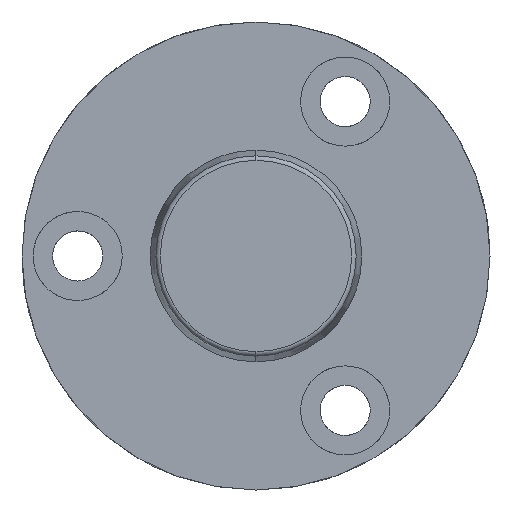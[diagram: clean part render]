
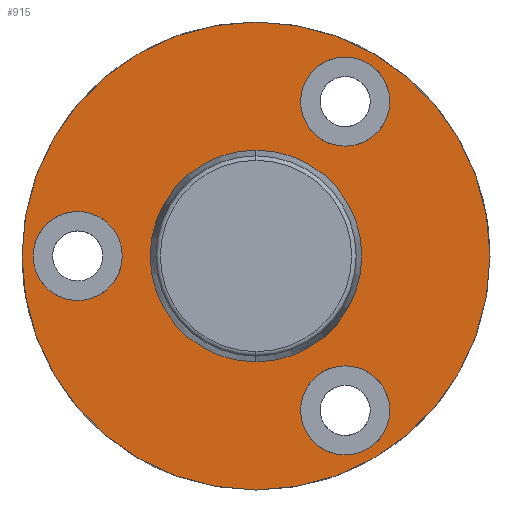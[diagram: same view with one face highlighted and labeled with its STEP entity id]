
A CAD part, left-side view. The second image highlights one B-rep face of the part: STEP entity #915.
In plain terms, the highlighted planar face has unit normal (-1, 0, 0).
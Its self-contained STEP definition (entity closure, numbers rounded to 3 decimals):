
#429=CARTESIAN_POINT('Vertex',(-8.,0.,-21.)) ;
#432=CARTESIAN_POINT('Axis2P3D Location',(-8.,0.,0.)) ;
#436=CARTESIAN_POINT('Vertex',(-8.,21.,0.)) ;
#439=CARTESIAN_POINT('Axis2P3D Location',(-8.,0.,0.)) ;
#443=CARTESIAN_POINT('Vertex',(-8.,0.,21.)) ;
#465=CARTESIAN_POINT('Axis2P3D Location',(-8.,0.,0.)) ;
#469=CARTESIAN_POINT('Vertex',(-8.,-21.,0.)) ;
#472=CARTESIAN_POINT('Axis2P3D Location',(-8.,0.,0.)) ;
#768=CARTESIAN_POINT('Axis2P3D Location',(-8.,8.,0.)) ;
#779=CARTESIAN_POINT('Axis2P3D Location',(-8.,16.,0.)) ;
#783=CARTESIAN_POINT('Vertex',(-8.,16.,4.)) ;
#785=CARTESIAN_POINT('Vertex',(-8.,20.,0.)) ;
#788=CARTESIAN_POINT('Axis2P3D Location',(-8.,16.,0.)) ;
#792=CARTESIAN_POINT('Vertex',(-8.,12.,0.)) ;
#795=CARTESIAN_POINT('Axis2P3D Location',(-8.,16.,0.)) ;
#799=CARTESIAN_POINT('Vertex',(-8.,16.,-4.)) ;
#802=CARTESIAN_POINT('Axis2P3D Location',(-8.,16.,0.)) ;
#813=CARTESIAN_POINT('Axis2P3D Location',(-8.,-8.,13.856)) ;
#817=CARTESIAN_POINT('Vertex',(-8.,-4.,13.856)) ;
#819=CARTESIAN_POINT('Vertex',(-8.,-8.,17.856)) ;
#822=CARTESIAN_POINT('Axis2P3D Location',(-8.,-8.,13.856)) ;
#826=CARTESIAN_POINT('Vertex',(-8.,-12.,13.856)) ;
#829=CARTESIAN_POINT('Axis2P3D Location',(-8.,-8.,13.856)) ;
#833=CARTESIAN_POINT('Vertex',(-8.,-8.,9.856)) ;
#836=CARTESIAN_POINT('Axis2P3D Location',(-8.,-8.,13.856)) ;
#847=CARTESIAN_POINT('Axis2P3D Location',(-8.,-8.,-13.856)) ;
#851=CARTESIAN_POINT('Vertex',(-8.,-4.,-13.856)) ;
#853=CARTESIAN_POINT('Vertex',(-8.,-8.,-9.856)) ;
#856=CARTESIAN_POINT('Axis2P3D Location',(-8.,-8.,-13.856)) ;
#860=CARTESIAN_POINT('Vertex',(-8.,-12.,-13.856)) ;
#863=CARTESIAN_POINT('Axis2P3D Location',(-8.,-8.,-13.856)) ;
#867=CARTESIAN_POINT('Vertex',(-8.,-8.,-17.856)) ;
#870=CARTESIAN_POINT('Axis2P3D Location',(-8.,-8.,-13.856)) ;
#881=CARTESIAN_POINT('Axis2P3D Location',(-8.,0.,0.)) ;
#885=CARTESIAN_POINT('Vertex',(-8.,8.,0.)) ;
#887=CARTESIAN_POINT('Vertex',(-8.,0.,8.)) ;
#890=CARTESIAN_POINT('Axis2P3D Location',(-8.,0.,0.)) ;
#894=CARTESIAN_POINT('Vertex',(-8.,-8.,0.)) ;
#897=CARTESIAN_POINT('Axis2P3D Location',(-8.,0.,0.)) ;
#901=CARTESIAN_POINT('Vertex',(-8.,0.,-8.)) ;
#904=CARTESIAN_POINT('Axis2P3D Location',(-8.,0.,0.)) ;
#433=DIRECTION('Axis2P3D Direction',(-1.,-0.,-0.)) ;
#440=DIRECTION('Axis2P3D Direction',(-1.,-0.,-0.)) ;
#466=DIRECTION('Axis2P3D Direction',(-1.,-0.,-0.)) ;
#473=DIRECTION('Axis2P3D Direction',(-1.,-0.,-0.)) ;
#769=DIRECTION('Axis2P3D Direction',(1.,0.,-0.)) ;
#770=DIRECTION('Axis2P3D XDirection',(-0.,0.,-1.)) ;
#780=DIRECTION('Axis2P3D Direction',(1.,0.,-0.)) ;
#789=DIRECTION('Axis2P3D Direction',(1.,0.,-0.)) ;
#796=DIRECTION('Axis2P3D Direction',(1.,0.,-0.)) ;
#803=DIRECTION('Axis2P3D Direction',(1.,0.,-0.)) ;
#814=DIRECTION('Axis2P3D Direction',(1.,0.,-0.)) ;
#823=DIRECTION('Axis2P3D Direction',(1.,0.,-0.)) ;
#830=DIRECTION('Axis2P3D Direction',(1.,0.,-0.)) ;
#837=DIRECTION('Axis2P3D Direction',(1.,0.,-0.)) ;
#848=DIRECTION('Axis2P3D Direction',(1.,0.,-0.)) ;
#857=DIRECTION('Axis2P3D Direction',(1.,0.,-0.)) ;
#864=DIRECTION('Axis2P3D Direction',(1.,0.,-0.)) ;
#871=DIRECTION('Axis2P3D Direction',(1.,0.,-0.)) ;
#882=DIRECTION('Axis2P3D Direction',(1.,0.,-0.)) ;
#891=DIRECTION('Axis2P3D Direction',(1.,0.,-0.)) ;
#898=DIRECTION('Axis2P3D Direction',(1.,0.,-0.)) ;
#905=DIRECTION('Axis2P3D Direction',(1.,0.,-0.)) ;
#434=AXIS2_PLACEMENT_3D('Circle Axis2P3D',#432,#433,$) ;
#441=AXIS2_PLACEMENT_3D('Circle Axis2P3D',#439,#440,$) ;
#467=AXIS2_PLACEMENT_3D('Circle Axis2P3D',#465,#466,$) ;
#474=AXIS2_PLACEMENT_3D('Circle Axis2P3D',#472,#473,$) ;
#771=AXIS2_PLACEMENT_3D('Plane Axis2P3D',#768,#769,#770) ;
#781=AXIS2_PLACEMENT_3D('Circle Axis2P3D',#779,#780,$) ;
#790=AXIS2_PLACEMENT_3D('Circle Axis2P3D',#788,#789,$) ;
#797=AXIS2_PLACEMENT_3D('Circle Axis2P3D',#795,#796,$) ;
#804=AXIS2_PLACEMENT_3D('Circle Axis2P3D',#802,#803,$) ;
#815=AXIS2_PLACEMENT_3D('Circle Axis2P3D',#813,#814,$) ;
#824=AXIS2_PLACEMENT_3D('Circle Axis2P3D',#822,#823,$) ;
#831=AXIS2_PLACEMENT_3D('Circle Axis2P3D',#829,#830,$) ;
#838=AXIS2_PLACEMENT_3D('Circle Axis2P3D',#836,#837,$) ;
#849=AXIS2_PLACEMENT_3D('Circle Axis2P3D',#847,#848,$) ;
#858=AXIS2_PLACEMENT_3D('Circle Axis2P3D',#856,#857,$) ;
#865=AXIS2_PLACEMENT_3D('Circle Axis2P3D',#863,#864,$) ;
#872=AXIS2_PLACEMENT_3D('Circle Axis2P3D',#870,#871,$) ;
#883=AXIS2_PLACEMENT_3D('Circle Axis2P3D',#881,#882,$) ;
#892=AXIS2_PLACEMENT_3D('Circle Axis2P3D',#890,#891,$) ;
#899=AXIS2_PLACEMENT_3D('Circle Axis2P3D',#897,#898,$) ;
#906=AXIS2_PLACEMENT_3D('Circle Axis2P3D',#904,#905,$) ;
#774=ORIENTED_EDGE('',*,*,#438,.F.) ;
#775=ORIENTED_EDGE('',*,*,#476,.F.) ;
#776=ORIENTED_EDGE('',*,*,#471,.F.) ;
#777=ORIENTED_EDGE('',*,*,#445,.F.) ;
#808=ORIENTED_EDGE('',*,*,#787,.F.) ;
#809=ORIENTED_EDGE('',*,*,#794,.F.) ;
#810=ORIENTED_EDGE('',*,*,#801,.F.) ;
#811=ORIENTED_EDGE('',*,*,#806,.F.) ;
#842=ORIENTED_EDGE('',*,*,#821,.T.) ;
#843=ORIENTED_EDGE('',*,*,#828,.T.) ;
#844=ORIENTED_EDGE('',*,*,#835,.T.) ;
#845=ORIENTED_EDGE('',*,*,#840,.T.) ;
#876=ORIENTED_EDGE('',*,*,#855,.T.) ;
#877=ORIENTED_EDGE('',*,*,#862,.T.) ;
#878=ORIENTED_EDGE('',*,*,#869,.T.) ;
#879=ORIENTED_EDGE('',*,*,#874,.T.) ;
#910=ORIENTED_EDGE('',*,*,#889,.T.) ;
#911=ORIENTED_EDGE('',*,*,#896,.T.) ;
#912=ORIENTED_EDGE('',*,*,#903,.T.) ;
#913=ORIENTED_EDGE('',*,*,#908,.T.) ;
#812=FACE_BOUND('',#807,.T.) ;
#846=FACE_BOUND('',#841,.T.) ;
#880=FACE_BOUND('',#875,.T.) ;
#914=FACE_BOUND('',#909,.T.) ;
#915=ADVANCED_FACE('721-19x170',(#778,#812,#846,#880,#914),#772,.F.) ;
#435=CIRCLE('generated circle',#434,21.) ;
#442=CIRCLE('generated circle',#441,21.) ;
#468=CIRCLE('generated circle',#467,21.) ;
#475=CIRCLE('generated circle',#474,21.) ;
#782=CIRCLE('generated circle',#781,4.) ;
#791=CIRCLE('generated circle',#790,4.) ;
#798=CIRCLE('generated circle',#797,4.) ;
#805=CIRCLE('generated circle',#804,4.) ;
#816=CIRCLE('generated circle',#815,4.) ;
#825=CIRCLE('generated circle',#824,4.) ;
#832=CIRCLE('generated circle',#831,4.) ;
#839=CIRCLE('generated circle',#838,4.) ;
#850=CIRCLE('generated circle',#849,4.) ;
#859=CIRCLE('generated circle',#858,4.) ;
#866=CIRCLE('generated circle',#865,4.) ;
#873=CIRCLE('generated circle',#872,4.) ;
#884=CIRCLE('generated circle',#883,8.) ;
#893=CIRCLE('generated circle',#892,8.) ;
#900=CIRCLE('generated circle',#899,8.) ;
#907=CIRCLE('generated circle',#906,8.) ;
#438=EDGE_CURVE('',#430,#437,#435,.F.) ;
#445=EDGE_CURVE('',#437,#444,#442,.F.) ;
#471=EDGE_CURVE('',#444,#470,#468,.F.) ;
#476=EDGE_CURVE('',#470,#430,#475,.F.) ;
#787=EDGE_CURVE('',#784,#786,#782,.F.) ;
#794=EDGE_CURVE('',#793,#784,#791,.F.) ;
#801=EDGE_CURVE('',#800,#793,#798,.F.) ;
#806=EDGE_CURVE('',#786,#800,#805,.F.) ;
#821=EDGE_CURVE('',#818,#820,#816,.T.) ;
#828=EDGE_CURVE('',#820,#827,#825,.T.) ;
#835=EDGE_CURVE('',#827,#834,#832,.T.) ;
#840=EDGE_CURVE('',#834,#818,#839,.T.) ;
#855=EDGE_CURVE('',#852,#854,#850,.T.) ;
#862=EDGE_CURVE('',#854,#861,#859,.T.) ;
#869=EDGE_CURVE('',#861,#868,#866,.T.) ;
#874=EDGE_CURVE('',#868,#852,#873,.T.) ;
#889=EDGE_CURVE('',#886,#888,#884,.T.) ;
#896=EDGE_CURVE('',#888,#895,#893,.T.) ;
#903=EDGE_CURVE('',#895,#902,#900,.T.) ;
#908=EDGE_CURVE('',#902,#886,#907,.T.) ;
#773=EDGE_LOOP('',(#774,#775,#776,#777)) ;
#807=EDGE_LOOP('',(#808,#809,#810,#811)) ;
#841=EDGE_LOOP('',(#842,#843,#844,#845)) ;
#875=EDGE_LOOP('',(#876,#877,#878,#879)) ;
#909=EDGE_LOOP('',(#910,#911,#912,#913)) ;
#778=FACE_OUTER_BOUND('',#773,.T.) ;
#772=PLANE('Plane',#771) ;
#430=VERTEX_POINT('',#429) ;
#437=VERTEX_POINT('',#436) ;
#444=VERTEX_POINT('',#443) ;
#470=VERTEX_POINT('',#469) ;
#784=VERTEX_POINT('',#783) ;
#786=VERTEX_POINT('',#785) ;
#793=VERTEX_POINT('',#792) ;
#800=VERTEX_POINT('',#799) ;
#818=VERTEX_POINT('',#817) ;
#820=VERTEX_POINT('',#819) ;
#827=VERTEX_POINT('',#826) ;
#834=VERTEX_POINT('',#833) ;
#852=VERTEX_POINT('',#851) ;
#854=VERTEX_POINT('',#853) ;
#861=VERTEX_POINT('',#860) ;
#868=VERTEX_POINT('',#867) ;
#886=VERTEX_POINT('',#885) ;
#888=VERTEX_POINT('',#887) ;
#895=VERTEX_POINT('',#894) ;
#902=VERTEX_POINT('',#901) ;
